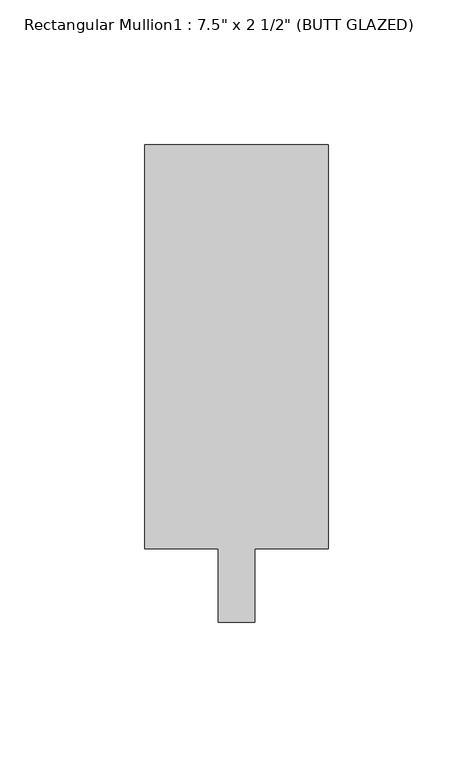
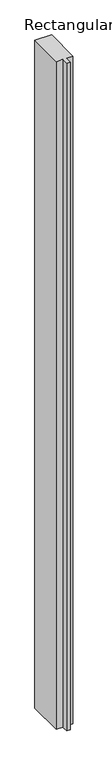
"""IFC4 building model written with IfcOpenShell, lengths in millimetres: member geometry."""

from ifc_helpers import new_model, si_unit, frame, origin, place, context, project, spatial, polyline, outline, extrude, source, transform, mapped, element, save


def member_9b70bb51(model_context):
    return source(origin(), model_context, "Body", "SweptSolid", [
        extrude(outline(polyline([(31.75, 165.1), (31.75, 25.4), (6.35, 25.4), (6.35, 0.0), (-6.35, 0.0), (-6.35, 25.4), (-31.75, 25.4), (-31.75, 165.1), (31.75, 165.1)])), frame((0.0, 0.0, -2679.7), z_axis=(0.0, 0.0, 1.0), x_axis=(1.0, 0.0, 0.0)), (0.0, 0.0, 1.0), 2679.7),
    ])


if __name__ == "__main__":
    model = new_model("IFC4")
    model_context = context("Model", 3, world=origin())
    ifc_project = project(units=[si_unit("LENGTHUNIT", "METRE", prefix="MILLI")], contexts=[model_context])
    site = spatial("IfcSite", under=ifc_project)
    building = spatial("IfcBuilding", under=site)
    placement = place(None, origin())
    member_shape = member_9b70bb51(model_context)
    element("IfcMember", 1, ObjectType="Rectangular Mullion1 : 7.5\" x 2 1/2\" (BUTT GLAZED)", at=placement, inside=building, context=model_context, shape_type="MappedRepresentation", body=[
        mapped(member_shape, transform((0.0, 0.0, 0.0), x_axis=(1.0, 0.0, 0.0), y_axis=(0.0, 1.0, 0.0), z_axis=(0.0, 0.0, 1.0))),
    ])
    save(model, "model.ifc")
